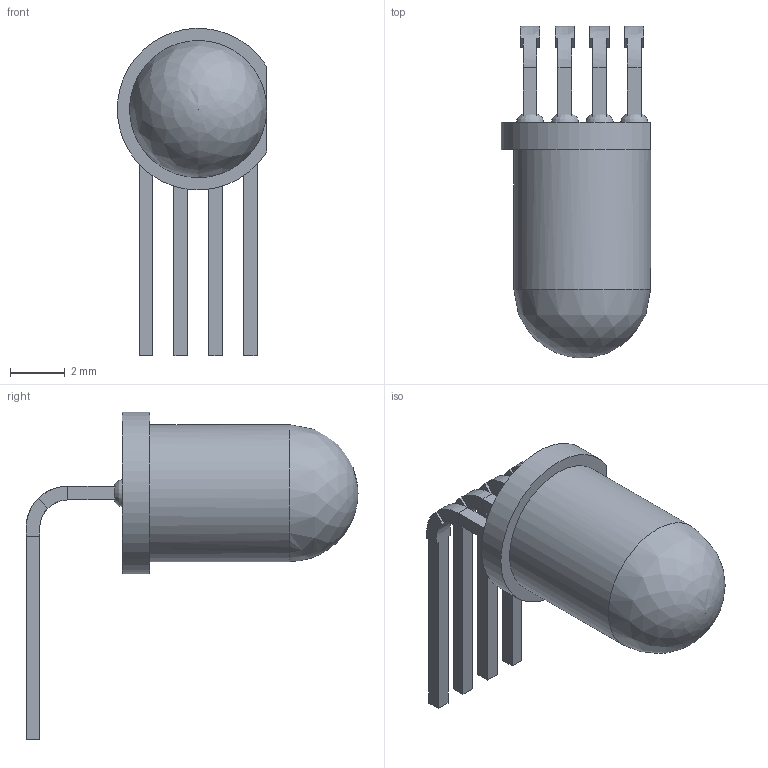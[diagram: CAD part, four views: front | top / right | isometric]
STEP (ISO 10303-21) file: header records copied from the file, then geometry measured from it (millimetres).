
FILE_DESCRIPTION(/* description */ (''),/* implementation_level */ '2;1');
FILE_NAME(/* name */ 'LE1C09~1',/* time_stamp */ '2022-11-08T16:30:47+01:00',/* author */ (''),/* organization */ (''),/* preprocessor_version */ 'ST-DEVELOPER v16.5',/* originating_system */ '',/* authorisation */ '');
FILE_SCHEMA (('AUTOMOTIVE_DESIGN'));
Length unit declared in the file: millimetre
Products named in the file (1): Document
Bounding box: 5.45 x 12.12 x 11.95 mm (x, y, z)
Volume: 160.1 mm3; surface area: 283.5 mm2
Topology: 1 solids, 6 shells, 80 faces, 205 edges, 131 vertices
Faces by surface type: plane 48, bspline 29, cylinder 3
Full cylindrical faces by diameter (mm): 5 x1
Entity records: 4867 total; most frequent: CARTESIAN_POINT 3458, ORIENTED_EDGE 383, EDGE_CURVE 200, B_SPLINE_CURVE_WITH_KNOTS 179, VERTEX_POINT 131, EDGE_LOOP 84, ADVANCED_FACE 80, FACE_OUTER_BOUND 80
